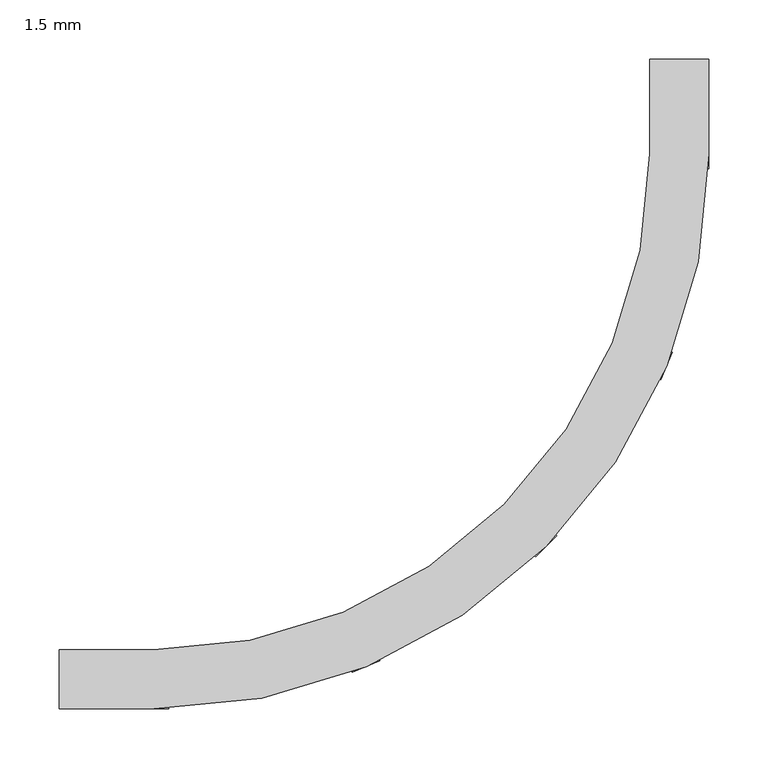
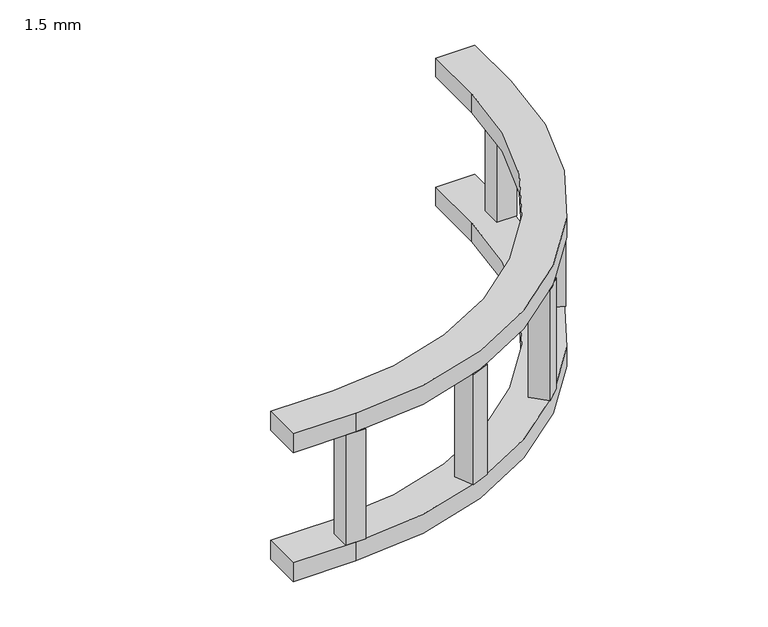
"""IFC4 building model written with IfcOpenShell, lengths in millimetres: cable carrier fitting geometry, BAKS_Łuk_pionowy_drabiny_wew : 1.5 mm."""

import ifcopenshell
import ifcopenshell.guid

model = None  # the IFC model being written
_history = None  # IfcOwnerHistory: only IFC2X3 demands one
_inside = {}  # id of a spatial element -> (the spatial element, [elements in it])
_under = {}  # id of a project, library or spatial element -> (it, [spatial elements below it])
_declared = {}  # id of a project -> (the project, [libraries it declares])
_typed = {}  # id of a type object -> (the type object, [elements of that type])
_made_of = {}  # id of a material, layer set ... -> (it, [elements and type objects made of it])


def new_model(schema):
    """Start an empty IFC model of exactly this schema.

    Asked for "IFC4X3", IfcOpenShell would pick the latest addendum, in which some entities
    have other attributes; the version numbers below select the first issue.
    IFC2X3 requires an IfcOwnerHistory on every rooted entity: one is made here for all.
    """
    global model, _history
    if schema == "IFC4X3":
        model = ifcopenshell.file(schema_version=(4, 3, 0, 0))
    else:
        model = ifcopenshell.file(schema=schema)
    _inside.clear()
    _under.clear()
    _declared.clear()
    _typed.clear()
    _made_of.clear()
    _history = None
    if model.schema == "IFC2X3":
        org = make("IfcOrganization", Name="unknown")
        user = make(
            "IfcPersonAndOrganization",
            ThePerson=make("IfcPerson", FamilyName="unknown"),
            TheOrganization=org,
        )
        app = make(
            "IfcApplication",
            ApplicationDeveloper=org,
            Version="unknown",
            ApplicationFullName="unknown",
            ApplicationIdentifier="unknown",
        )
        _history = make(
            "IfcOwnerHistory",
            OwningUser=user,
            OwningApplication=app,
            ChangeAction="ADDED",
            CreationDate=0,
        )
    return model


def make(cls, **values):
    """One entity of the class cls with the attributes given. An attribute that is None is left unset."""
    return model.create_entity(
        cls, **{name: value for name, value in values.items() if value is not None}
    )


def rooted(cls, **values):
    """An entity with a GlobalId (a new one), such as an element, a storey or a relation."""
    return make(cls, GlobalId=ifcopenshell.guid.new(), OwnerHistory=_history, **values)


def si_unit(unit_type, name, prefix=None):
    """IfcSIUnit, for example si_unit("LENGTHUNIT", "METRE", prefix="MILLI")."""
    return make("IfcSIUnit", UnitType=unit_type, Prefix=prefix, Name=name)


def assignment(units):
    """IfcUnitAssignment: the units of a project."""
    return None if units is None else make("IfcUnitAssignment", Units=units)


def point(xyz):
    """IfcCartesianPoint."""
    return None if xyz is None else make("IfcCartesianPoint", Coordinates=xyz)


def direction(xyz):
    """IfcDirection."""
    return None if xyz is None else make("IfcDirection", DirectionRatios=xyz)


def frame(location, z_axis=None, x_axis=None):
    """IfcAxis2Placement3D, a coordinate frame: its origin and axes. An axis left out is left unset."""
    return make(
        "IfcAxis2Placement3D",
        Location=point(location),
        Axis=direction(z_axis),
        RefDirection=direction(x_axis),
    )


def frame_2d(location, x_axis=None):
    """IfcAxis2Placement2D, a coordinate frame in the plane: its origin and x axis."""
    return make(
        "IfcAxis2Placement2D", Location=point(location), RefDirection=direction(x_axis)
    )


def origin():
    """The frame at (0, 0, 0) with its axes left unset."""
    return frame((0.0, 0.0, 0.0))


def place(relative_to, where):
    """IfcLocalPlacement: puts the frame where relative to a parent placement (None: the world)."""
    return make(
        "IfcLocalPlacement", PlacementRelTo=relative_to, RelativePlacement=where
    )


def context(
    kind, dimensions, precision=None, world=None, true_north=None, identifier=None
):
    """IfcGeometricRepresentationContext, for example the 3D "Model" context."""
    return make(
        "IfcGeometricRepresentationContext",
        ContextIdentifier=identifier,
        ContextType=kind,
        CoordinateSpaceDimension=dimensions,
        Precision=precision,
        WorldCoordinateSystem=world,
        TrueNorth=true_north,
    )


def project(units=None, contexts=None):
    """IfcProject with its units and contexts."""
    return rooted(
        "IfcProject",
        Name="project",
        RepresentationContexts=contexts,
        UnitsInContext=assignment(units),
    )


def spatial(cls, under=None, at=None, **own):
    """A site, building, storey or space (cls), placed at a placement, below another one or the project."""
    s = rooted(cls, ObjectPlacement=at, **own)
    if under is not None:
        _under.setdefault(under.id(), (under, []))[1].append(s)
    return s


def polyline(points):
    """IfcPolyline through the points."""
    return make("IfcPolyline", Points=[point(p) for p in points])


def circle_curve(where, radius):
    """IfcCircle in the frame where."""
    return make("IfcCircle", Position=where, Radius=radius)


def trimmed(basis, trim1, trim2, sense, master):
    """IfcTrimmedCurve: the piece of a basis curve between two trims."""
    return make(
        "IfcTrimmedCurve",
        BasisCurve=basis,
        Trim1=trim1,
        Trim2=trim2,
        SenseAgreement=sense,
        MasterRepresentation=master,
    )


def segment(curve, same_sense, transition):
    """IfcCompositeCurveSegment."""
    return make(
        "IfcCompositeCurveSegment",
        Transition=transition,
        SameSense=same_sense,
        ParentCurve=curve,
    )


def composite_curve(segments, self_intersect=None):
    """IfcCompositeCurve: segments joined end to end."""
    return make("IfcCompositeCurve", Segments=segments, SelfIntersect=self_intersect)


def outline(outer, holes=None, kind="AREA"):
    """IfcArbitraryClosedProfileDef: a profile drawn as a closed curve; with holes, ...WithVoids."""
    if holes is None:
        return make("IfcArbitraryClosedProfileDef", ProfileType=kind, OuterCurve=outer)
    return make(
        "IfcArbitraryProfileDefWithVoids",
        ProfileType=kind,
        OuterCurve=outer,
        InnerCurves=holes,
    )


def extrude(swept, where, along, depth):
    """IfcExtrudedAreaSolid: the profile swept, set in the frame where, extruded along a direction by depth."""
    return make(
        "IfcExtrudedAreaSolid",
        SweptArea=swept,
        Position=where,
        ExtrudedDirection=direction(along),
        Depth=depth,
    )


def shape(context_of_items, identifier, shape_type, items):
    """IfcShapeRepresentation: the items that make up one representation, for example the "Body"."""
    return make(
        "IfcShapeRepresentation",
        ContextOfItems=context_of_items,
        RepresentationIdentifier=identifier,
        RepresentationType=shape_type,
        Items=items,
    )


def source(mapping_origin, context_of_items, identifier, shape_type, items):
    """IfcRepresentationMap: a shape defined once, which mapped items show again and again."""
    return make(
        "IfcRepresentationMap",
        MappingOrigin=mapping_origin,
        MappedRepresentation=shape(context_of_items, identifier, shape_type, items),
    )


def transform(
    local_origin,
    x_axis=None,
    y_axis=None,
    z_axis=None,
    scale=None,
    scale2=None,
    scale3=None,
    uniform=True,
):
    """IfcCartesianTransformationOperator3D, or its non-uniform kind. x_axis, y_axis, z_axis: its Axis1, 2, 3."""
    if uniform:
        return make(
            "IfcCartesianTransformationOperator3D",
            Axis1=direction(x_axis),
            Axis2=direction(y_axis),
            LocalOrigin=point(local_origin),
            Scale=scale,
            Axis3=direction(z_axis),
        )
    return make(
        "IfcCartesianTransformationOperator3DnonUniform",
        Axis1=direction(x_axis),
        Axis2=direction(y_axis),
        LocalOrigin=point(local_origin),
        Scale=scale,
        Axis3=direction(z_axis),
        Scale2=scale2,
        Scale3=scale3,
    )


def mapped(mapping_source, mapping_target):
    """IfcMappedItem: shows the shape of a source again, moved by a transform."""
    return make(
        "IfcMappedItem", MappingSource=mapping_source, MappingTarget=mapping_target
    )


def made_of(thing, what):
    """Note that an element or type object is made of a material, layer set ...; save() writes the relation."""
    if what is not None:
        _made_of.setdefault(what.id(), (what, []))[1].append(thing)
    return thing


def element(
    cls,
    number,
    at=None,
    inside=None,
    cuts=None,
    type_object=None,
    material=None,
    context=None,
    identifier="Body",
    shape_type=None,
    held_by="IfcProductDefinitionShape",
    body=None,
    shapes=None,
    **own,
):
    """One element of the class cls, such as IfcWall. Its Tag is "e" and its number.

    at: its placement. inside: the storey or other place that contains it. cuts: it is an
    opening in that element (IfcRelVoidsElement). A single representation is given by context,
    identifier, shape_type and body (its items); several are given by shapes. held_by: the class
    of the entity that holds the representations. save() writes the other relations.
    """
    e = rooted(cls, Tag="e%d" % number, ObjectPlacement=at, **own)
    if body is not None:
        shapes = [shape(context, identifier, shape_type, body)]
    if shapes is not None:
        e.Representation = make(held_by, Representations=shapes)
    if inside is not None:
        _inside.setdefault(inside.id(), (inside, []))[1].append(e)
    if cuts is not None:
        rooted(
            "IfcRelVoidsElement", RelatingBuildingElement=cuts, RelatedOpeningElement=e
        )
    if type_object is not None:
        _typed.setdefault(type_object.id(), (type_object, []))[1].append(e)
    return made_of(e, material)


def aggregate(whole, parts):
    """IfcRelAggregates: a whole, such as a stair, and the parts it consists of."""
    return rooted("IfcRelAggregates", RelatingObject=whole, RelatedObjects=parts)


def save(model, path):
    """Write the relations noted so far, then the file.

    IfcRelAggregates (storeys below a building ...), IfcRelContainedInSpatialStructure (elements
    in a storey), IfcRelDefinesByType, IfcRelAssociatesMaterial and IfcRelDeclares: one each for
    every whole, place, type object, material and project.
    """
    for whole, parts in _under.values():
        aggregate(whole, parts)
    for where, things in _inside.values():
        rooted(
            "IfcRelContainedInSpatialStructure",
            RelatedElements=things,
            RelatingStructure=where,
        )
    for kind, things in _typed.values():
        rooted("IfcRelDefinesByType", RelatedObjects=things, RelatingType=kind)
    for what, things in _made_of.values():
        rooted("IfcRelAssociatesMaterial", RelatedObjects=things, RelatingMaterial=what)
    for by, libraries in _declared.values():
        rooted("IfcRelDeclares", RelatingContext=by, RelatedDefinitions=libraries)
    model.write(path)


def cable_carrier_fitting_1_5_mm_f55de235(model_context):
    return source(origin(), model_context, "Body", "SweptSolid", [
        extrude(outline(polyline([(-29.3830802, 286.592216), (-5.9165401, 276.8720568), (-15.6366993, 253.4055167), (-39.1032394, 263.1256759), (-29.3830802, 286.592216)])), frame((0.0, 0.0, -74.6), z_axis=(0.0, 0.0, 1.0), x_axis=(1.0, 0.0, 0.0)), (0.0, 0.0, 1.0), 149.2),
        extrude(outline(polyline([(-263.1256759, 39.1032394), (-253.4055167, 15.6366993), (-276.8720568, 5.9165401), (-286.592216, 29.3830802), (-263.1256759, 39.1032394)])), frame((0.0, 0.0, -74.6), z_axis=(0.0, 0.0, 1.0), x_axis=(1.0, 0.0, 0.0)), (0.0, 0.0, 1.0), 149.2),
        extrude(outline(polyline([(-0.4, 457.7), (25.0, 457.7), (25.0, 432.3), (-0.4, 432.3), (-0.4, 457.7)])), frame((0.0, 0.0, -74.6), z_axis=(0.0, 0.0, 1.0), x_axis=(1.0, 0.0, 0.0)), (0.0, 0.0, 1.0), 149.2),
        extrude(outline(polyline([(-121.640069, 139.6005812), (-103.6795567, 121.640069), (-121.640069, 103.6795567), (-139.6005812, 121.640069), (-121.640069, 139.6005812)])), frame((0.0, 0.0, -74.6), z_axis=(0.0, 0.0, 1.0), x_axis=(1.0, 0.0, 0.0)), (0.0, 0.0, 1.0), 149.2),
        extrude(outline(polyline([(-457.7, -25.0), (-457.7, 0.4), (-432.3, 0.4), (-432.3, -25.0), (-457.7, -25.0)])), frame((0.0, 0.0, -74.6), z_axis=(0.0, 0.0, 1.0), x_axis=(1.0, 0.0, 0.0)), (0.0, 0.0, 1.0), 149.2),
        extrude(outline(composite_curve([segment(polyline([(-525.0, -25.0), (-525.0, 25.0), (-445.0, 25.0)]), True, "CONTINUOUS"), segment(trimmed(circle_curve(frame_2d((-445.0, 445.0)), 420.0), [point((-445.0, 25.0))], [point((-25.0, 445.0))], True, "CARTESIAN"), True, "CONTINUOUS"), segment(polyline([(-25.0, 445.0), (-25.0, 525.0), (25.0, 525.0), (25.0, 445.0)]), True, "CONTINUOUS"), segment(trimmed(circle_curve(frame_2d((-445.0, 445.0)), 470.0), [point((25.0, 445.0))], [point((-445.0, -25.0))], False, "CARTESIAN"), True, "CONTINUOUS"), segment(polyline([(-445.0, -25.0), (-525.0, -25.0)]), True, "CONTINUOUS")], self_intersect=False)), frame((0.0, 0.0, 74.6), z_axis=(0.0, 0.0, 1.0), x_axis=(1.0, 0.0, 0.0)), (0.0, 0.0, 1.0), 25.4),
        extrude(outline(composite_curve([segment(polyline([(-525.0, -25.0), (-525.0, 25.0), (-445.0, 25.0)]), True, "CONTINUOUS"), segment(trimmed(circle_curve(frame_2d((-445.0, 445.0)), 420.0), [point((-445.0, 25.0))], [point((-25.0, 445.0))], True, "CARTESIAN"), True, "CONTINUOUS"), segment(polyline([(-25.0, 445.0), (-25.0, 525.0), (25.0, 525.0), (25.0, 445.0)]), True, "CONTINUOUS"), segment(trimmed(circle_curve(frame_2d((-445.0, 445.0)), 470.0), [point((25.0, 445.0))], [point((-445.0, -25.0))], False, "CARTESIAN"), True, "CONTINUOUS"), segment(polyline([(-445.0, -25.0), (-525.0, -25.0)]), True, "CONTINUOUS")], self_intersect=False)), frame((0.0, 0.0, -100.0), z_axis=(0.0, 0.0, 1.0), x_axis=(1.0, 0.0, 0.0)), (0.0, 0.0, 1.0), 25.4),
    ])


if __name__ == "__main__":
    model = new_model("IFC4")
    model_context = context("Model", 3, world=origin())
    ifc_project = project(units=[si_unit("LENGTHUNIT", "METRE", prefix="MILLI")], contexts=[model_context])
    site = spatial("IfcSite", under=ifc_project)
    building = spatial("IfcBuilding", under=site)
    placement = place(None, origin())
    cable_carrier_fitting_1_5_mm_shape = cable_carrier_fitting_1_5_mm_f55de235(model_context)
    element("IfcCableCarrierFitting", 1, ObjectType="BAKS_Łuk_pionowy_drabiny_wew : 1.5 mm", at=placement, inside=building, context=model_context, shape_type="MappedRepresentation", body=[
        mapped(cable_carrier_fitting_1_5_mm_shape, transform((0.0, 0.0, 0.0), x_axis=(1.0, 0.0, 0.0), y_axis=(0.0, 1.0, 0.0), z_axis=(0.0, 0.0, 1.0))),
    ])
    save(model, "model.ifc")
